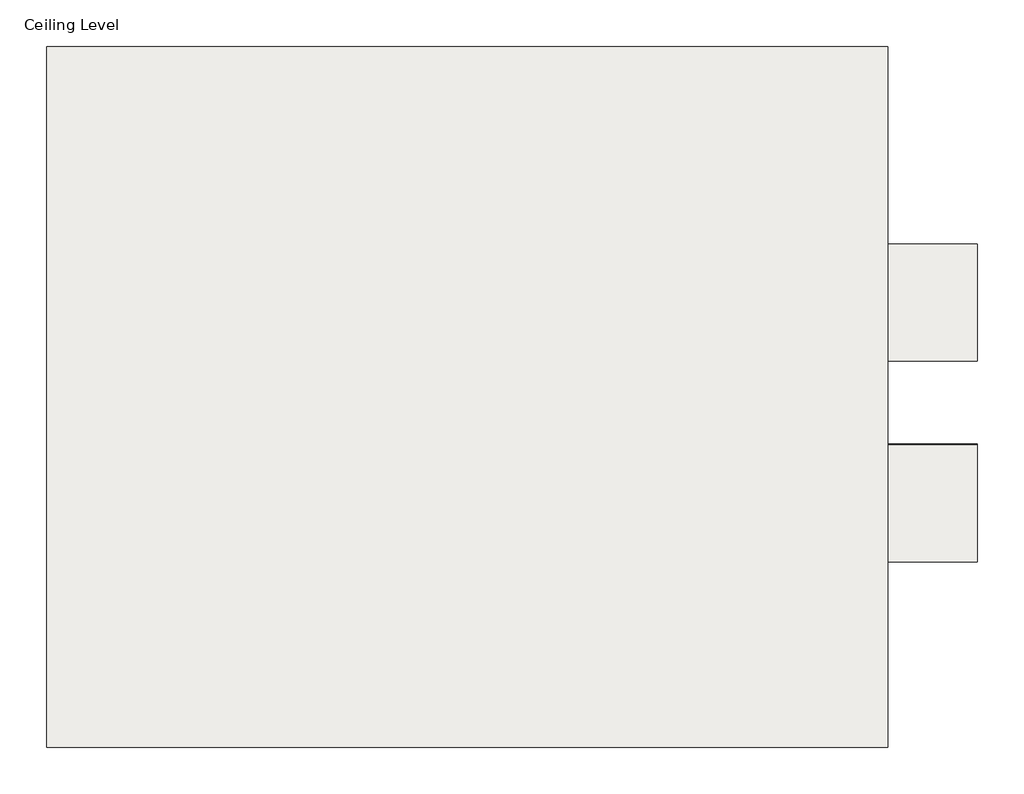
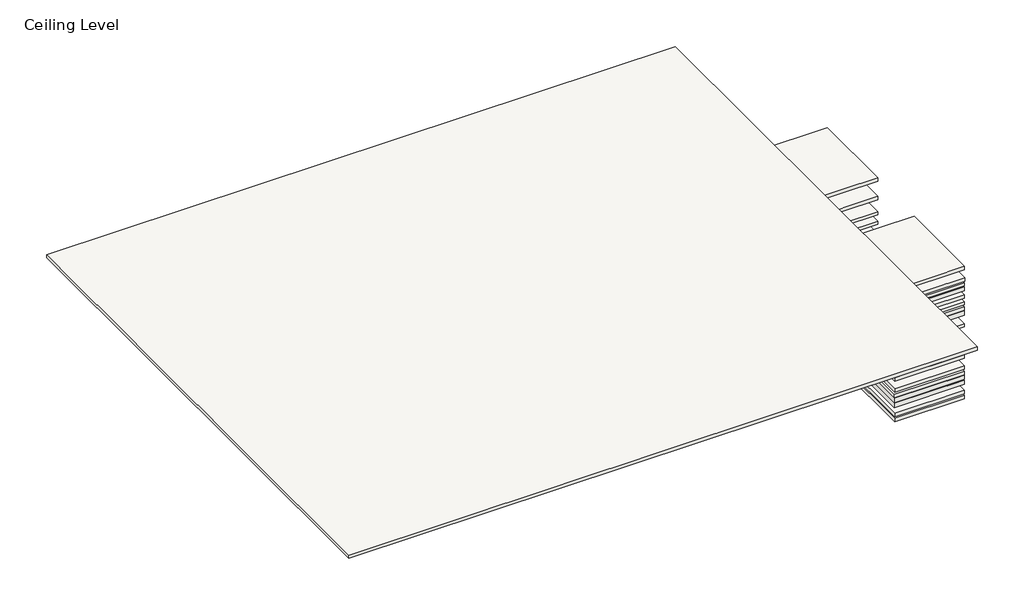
# One storey: 29 coverings.
"""IFC4 building model written with IfcOpenShell, lengths in millimetres."""

from ifc_helpers import new_model, si_unit, frame, origin, place, context, project, spatial, polyline, outline, extrude, element, save

model = new_model("IFC4")

# Units and contexts
model_context = context("Model", 3, world=origin())
ifc_project = project(units=[si_unit("LENGTHUNIT", "METRE", prefix="MILLI")], contexts=[model_context])

# Site, building, storey
site = spatial("IfcSite", under=ifc_project)
building = spatial("IfcBuilding", under=site)
storey = spatial("IfcBuildingStorey", under=building, Name="Ceiling Level", Elevation=0.0)

# Coverings
placement = place(None, origin())
element("IfcCovering", 1, ObjectType="Rockfon Blanka A24 (white) 1200 x 600 mm", at=placement, inside=storey, context=model_context, shape_type="SweptSolid", body=[
    extrude(outline(polyline([(-7116.7423739, 8843.6758075), (-7116.7423739, 5843.6758075), (-10716.7423739, 5843.6758075), (-10716.7423739, 8843.6758075), (-7116.7423739, 8843.6758075)])), frame((0.0, 0.0, 1.0), z_axis=(0.0, 0.0, 1.0), x_axis=(1.0, 0.0, 0.0)), (0.0, 0.0, 1.0), 20.0),
])
element("IfcCovering", 2, ObjectType="Rockfon Blanka E24 (white) 600 x 600 mm", at=placement, inside=storey, context=model_context, shape_type="SweptSolid", body=[
    extrude(outline(polyline([(-6733.0033126, 7997.4793902), (-6733.0033126, 7497.4793902), (-7133.0033126, 7497.4793902), (-7133.0033126, 7997.4793902), (-6733.0033126, 7997.4793902)])), frame((0.0, 0.0, -565.5292024), z_axis=(0.0, 0.0, 1.0), x_axis=(1.0, 0.0, 0.0)), (0.0, 0.0, 1.0), 20.0),
])
element("IfcCovering", 3, ObjectType="Rockfon Blanka E15 (white) 600 x 600 mm", at=placement, inside=storey, context=model_context, shape_type="SweptSolid", body=[
    extrude(outline(polyline([(-6733.0033126, 7997.4793902), (-6733.0033126, 7497.4793902), (-7133.0033126, 7497.4793902), (-7133.0033126, 7997.4793902), (-6733.0033126, 7997.4793902)])), frame((0.0, 0.0, -451.6416578), z_axis=(0.0, 0.0, 1.0), x_axis=(1.0, 0.0, 0.0)), (0.0, 0.0, 1.0), 20.0),
])
element("IfcCovering", 4, ObjectType="Rockfon Blanka D (white) 600 x 600 mm", at=placement, inside=storey, context=model_context, shape_type="SweptSolid", body=[
    extrude(outline(polyline([(-6733.0033126, 7997.4793902), (-6733.0033126, 7497.4793902), (-7133.0033126, 7497.4793902), (-7133.0033126, 7997.4793902), (-6733.0033126, 7997.4793902)])), frame((0.0, 0.0, -374.3313889), z_axis=(0.0, 0.0, 1.0), x_axis=(1.0, 0.0, 0.0)), (0.0, 0.0, 1.0), 20.0),
])
element("IfcCovering", 5, ObjectType="Rockfon Blanka B (white) 600 x 600 mm", at=placement, inside=storey, context=model_context, shape_type="SweptSolid", body=[
    extrude(outline(polyline([(-6733.0033126, 7997.4793902), (-6733.0033126, 7497.4793902), (-7133.0033126, 7497.4793902), (-7133.0033126, 7997.4793902), (-6733.0033126, 7997.4793902)])), frame((0.0, 0.0, -315.9461569), z_axis=(0.0, 0.0, 1.0), x_axis=(1.0, 0.0, 0.0)), (0.0, 0.0, 1.0), 20.0),
])
element("IfcCovering", 6, ObjectType="Rockfon Blanka A24 (white) 600 x 600 mm", at=placement, inside=storey, context=model_context, shape_type="SweptSolid", body=[
    extrude(outline(polyline([(-6733.0033126, 7997.4793902), (-6733.0033126, 7497.4793902), (-7133.0033126, 7497.4793902), (-7133.0033126, 7997.4793902), (-6733.0033126, 7997.4793902)])), frame((0.0, 0.0, -224.7096057), z_axis=(0.0, 0.0, 1.0), x_axis=(1.0, 0.0, 0.0)), (0.0, 0.0, 1.0), 20.0),
])
element("IfcCovering", 7, ObjectType="Rockfon Blanka A15 (white) 600 x 600 mm", at=placement, inside=storey, context=model_context, shape_type="SweptSolid", body=[
    extrude(outline(polyline([(-6733.0033126, 7997.4793902), (-6733.0033126, 7497.4793902), (-7133.0033126, 7497.4793902), (-7133.0033126, 7997.4793902), (-6733.0033126, 7997.4793902)])), frame((0.0, 0.0, -111.8334009), z_axis=(0.0, 0.0, 1.0), x_axis=(1.0, 0.0, 0.0)), (0.0, 0.0, 1.0), 20.0),
])
element("IfcCovering", 8, ObjectType="Rockfon Blanka M (white) 600 x 600 mm", at=placement, inside=storey, context=model_context, shape_type="SweptSolid", body=[
    extrude(outline(polyline([(-6733.0033126, 7997.4793902), (-6733.0033126, 7497.4793902), (-7133.0033126, 7497.4793902), (-7133.0033126, 7997.4793902), (-6733.0033126, 7997.4793902)])), frame((0.0, 0.0, -661.6197018), z_axis=(0.0, 0.0, 1.0), x_axis=(1.0, 0.0, 0.0)), (0.0, 0.0, 1.0), 20.0),
])
element("IfcCovering", 9, ObjectType="Rockfon Blanka X (white) 600 x 600 mm", at=placement, inside=storey, context=model_context, shape_type="SweptSolid", body=[
    extrude(outline(polyline([(-6733.0033126, 7997.4793902), (-6733.0033126, 7497.4793902), (-7133.0033126, 7497.4793902), (-7133.0033126, 7997.4793902), (-6733.0033126, 7997.4793902)])), frame((0.0, 0.0, -749.5133217), z_axis=(0.0, 0.0, 1.0), x_axis=(1.0, 0.0, 0.0)), (0.0, 0.0, 1.0), 22.0),
])
element("IfcCovering", 10, ObjectType="Rockfon Blanka Z (white) 600 x 600 mm", at=placement, inside=storey, context=model_context, shape_type="SweptSolid", body=[
    extrude(outline(polyline([(-6733.0033126, 7997.4793902), (-6733.0033126, 7497.4793902), (-7133.0033126, 7497.4793902), (-7133.0033126, 7997.4793902), (-6733.0033126, 7997.4793902)])), frame((0.0, 0.0, -876.9935831), z_axis=(0.0, 0.0, 1.0), x_axis=(1.0, 0.0, 0.0)), (0.0, 0.0, 1.0), 20.0),
])
element("IfcCovering", 11, ObjectType="Rockfon Blanka E15 (white) 1200 x 600 mm", at=placement, inside=storey, context=model_context, shape_type="SweptSolid", body=[
    extrude(outline(polyline([(-6733.0033126, 7138.5710355), (-6733.0033126, 6638.5710355), (-7133.0033126, 6638.5710355), (-7133.0033126, 7138.5710355), (-6733.0033126, 7138.5710355)])), frame((0.0, 0.0, -473.8309909), z_axis=(0.0, 0.0, 1.0), x_axis=(1.0, 0.0, 0.0)), (0.0, 0.0, 1.0), 20.0),
])
element("IfcCovering", 12, ObjectType="Rockfon Blanka B (white) 1200 x 600 mm", at=placement, inside=storey, context=model_context, shape_type="SweptSolid", body=[
    extrude(outline(polyline([(-6733.0033126, 7138.8849722), (-6733.0033126, 6638.8849722), (-7133.0033126, 6638.8849722), (-7133.0033126, 7138.8849722), (-6733.0033126, 7138.8849722)])), frame((0.0, 0.0, -299.1601161), z_axis=(0.0, 0.0, 1.0), x_axis=(1.0, 0.0, 0.0)), (0.0, 0.0, 1.0), 20.0),
])
element("IfcCovering", 13, ObjectType="Rockfon Blanka A24 (white) 1200 x 600 mm", at=placement, inside=storey, context=model_context, shape_type="SweptSolid", body=[
    extrude(outline(polyline([(-6733.0033126, 7136.5301333), (-6733.0033126, 6636.5301333), (-7133.0033126, 6636.5301333), (-7133.0033126, 7136.5301333), (-6733.0033126, 7136.5301333)])), frame((0.0, 0.0, -195.0), z_axis=(0.0, 0.0, 1.0), x_axis=(1.0, 0.0, 0.0)), (0.0, 0.0, 1.0), 20.0),
])
element("IfcCovering", 14, ObjectType="Rockfon Blanka A24 (white) 2400 x 600 mm", at=placement, inside=storey, context=model_context, shape_type="SweptSolid", body=[
    extrude(outline(polyline([(-6733.0033126, 7137.4793902), (-6733.0033126, 6637.4793902), (-7133.0033126, 6637.4793902), (-7133.0033126, 7137.4793902), (-6733.0033126, 7137.4793902)])), frame((0.0, 0.0, -255.0), z_axis=(0.0, 0.0, 1.0), x_axis=(1.0, 0.0, 0.0)), (0.0, 0.0, 1.0), 25.0),
])
element("IfcCovering", 15, ObjectType="Rockfon Blanka A24 (white) 1800 x 600 mm", at=placement, inside=storey, context=model_context, shape_type="SweptSolid", body=[
    extrude(outline(polyline([(-6733.0033126, 7137.4793902), (-6733.0033126, 6637.4793902), (-7133.0033126, 6637.4793902), (-7133.0033126, 7137.4793902), (-6733.0033126, 7137.4793902)])), frame((0.0, 0.0, -224.7096057), z_axis=(0.0, 0.0, 1.0), x_axis=(1.0, 0.0, 0.0)), (0.0, 0.0, 1.0), 20.0),
])
element("IfcCovering", 16, ObjectType="Rockfon Blanka A15 (white) 1200 x 600 mm", at=placement, inside=storey, context=model_context, shape_type="SweptSolid", body=[
    extrude(outline(polyline([(-6733.0033126, 7137.4793902), (-6733.0033126, 6637.4793902), (-7133.0033126, 6637.4793902), (-7133.0033126, 7137.4793902), (-6733.0033126, 7137.4793902)])), frame((0.0, 0.0, -126.8334009), z_axis=(0.0, 0.0, 1.0), x_axis=(1.0, 0.0, 0.0)), (0.0, 0.0, 1.0), 20.0),
])
element("IfcCovering", 17, ObjectType="Rockfon Blanka M (white) 1200 x 600 mm", at=placement, inside=storey, context=model_context, shape_type="SweptSolid", body=[
    extrude(outline(polyline([(-6733.0033126, 7137.4793902), (-6733.0033126, 6637.4793902), (-7133.0033126, 6637.4793902), (-7133.0033126, 7137.4793902), (-6733.0033126, 7137.4793902)])), frame((0.0, 0.0, -661.6197018), z_axis=(0.0, 0.0, 1.0), x_axis=(1.0, 0.0, 0.0)), (0.0, 0.0, 1.0), 20.0),
])
element("IfcCovering", 18, ObjectType="Rockfon Blanka X (white) 1200 x 600 mm", at=placement, inside=storey, context=model_context, shape_type="SweptSolid", body=[
    extrude(outline(polyline([(-6733.0033126, 7137.4793902), (-6733.0033126, 6637.4793902), (-7133.0033126, 6637.4793902), (-7133.0033126, 7137.4793902), (-6733.0033126, 7137.4793902)])), frame((0.0, 0.0, -729.5133217), z_axis=(0.0, 0.0, 1.0), x_axis=(1.0, 0.0, 0.0)), (0.0, 0.0, 1.0), 22.0),
])
element("IfcCovering", 19, ObjectType="Rockfon Blanka Z (white) 1200 x 600 mm", at=placement, inside=storey, context=model_context, shape_type="SweptSolid", body=[
    extrude(outline(polyline([(-6733.0033126, 7137.4793902), (-6733.0033126, 6637.4793902), (-7133.0033126, 6637.4793902), (-7133.0033126, 7137.4793902), (-6733.0033126, 7137.4793902)])), frame((0.0, 0.0, -876.9935831), z_axis=(0.0, 0.0, 1.0), x_axis=(1.0, 0.0, 0.0)), (0.0, 0.0, 1.0), 20.0),
])
element("IfcCovering", 20, ObjectType="Rockfon Blanka X (white) 1800 x 600 mm", at=placement, inside=storey, context=model_context, shape_type="SweptSolid", body=[
    extrude(outline(polyline([(-6733.0033126, 7140.1190061), (-6733.0033126, 6640.1190061), (-7133.0033126, 6640.1190061), (-7133.0033126, 7140.1190061), (-6733.0033126, 7140.1190061)])), frame((0.0, 0.0, -764.1601161), z_axis=(0.0, 0.0, 1.0), x_axis=(1.0, 0.0, 0.0)), (0.0, 0.0, 1.0), 22.0),
])
element("IfcCovering", 21, ObjectType="Rockfon Blanka X (white) 2400 x 600 mm", at=placement, inside=storey, context=model_context, shape_type="SweptSolid", body=[
    extrude(outline(polyline([(-6733.0033126, 7141.0682629), (-6733.0033126, 6641.0682629), (-7133.0033126, 6641.0682629), (-7133.0033126, 7141.0682629), (-6733.0033126, 7141.0682629)])), frame((0.0, 0.0, -824.1601161), z_axis=(0.0, 0.0, 1.0), x_axis=(1.0, 0.0, 0.0)), (0.0, 0.0, 1.0), 25.0),
])
element("IfcCovering", 22, ObjectType="Rockfon Blanka X (white) 2100 x 600 mm", at=placement, inside=storey, context=model_context, shape_type="SweptSolid", body=[
    extrude(outline(polyline([(-6733.0033126, 7141.0682629), (-6733.0033126, 6641.0682629), (-7133.0033126, 6641.0682629), (-7133.0033126, 7141.0682629), (-6733.0033126, 7141.0682629)])), frame((0.0, 0.0, -793.8697217), z_axis=(0.0, 0.0, 1.0), x_axis=(1.0, 0.0, 0.0)), (0.0, 0.0, 1.0), 25.0),
])
element("IfcCovering", 23, ObjectType="Rockfon Blanka Z (white) 1800 x 600 mm", at=placement, inside=storey, context=model_context, shape_type="SweptSolid", body=[
    extrude(outline(polyline([(-6733.0033126, 7137.4793902), (-6733.0033126, 6637.4793902), (-7133.0033126, 6637.4793902), (-7133.0033126, 7137.4793902), (-6733.0033126, 7137.4793902)])), frame((0.0, 0.0, -906.9935831), z_axis=(0.0, 0.0, 1.0), x_axis=(1.0, 0.0, 0.0)), (0.0, 0.0, 1.0), 20.0),
])
element("IfcCovering", 24, ObjectType="Rockfon Blanka E24 (white) 1200 x 600 mm", at=placement, inside=storey, context=model_context, shape_type="SweptSolid", body=[
    extrude(outline(polyline([(-6733.0033126, 7137.4793902), (-6733.0033126, 6637.4793902), (-7133.0033126, 6637.4793902), (-7133.0033126, 7137.4793902), (-6733.0033126, 7137.4793902)])), frame((0.0, 0.0, -534.5133217), z_axis=(0.0, 0.0, 1.0), x_axis=(1.0, 0.0, 0.0)), (0.0, 0.0, 1.0), 20.0),
])
element("IfcCovering", 25, ObjectType="Rockfon Blanka E24 (white) 1200 x 1200 mm", at=placement, inside=storey, context=model_context, shape_type="SweptSolid", body=[
    extrude(outline(polyline([(-6733.0033126, 7141.0682629), (-6733.0033126, 6641.0682629), (-7133.0033126, 6641.0682629), (-7133.0033126, 7141.0682629), (-6733.0033126, 7141.0682629)])), frame((0.0, 0.0, -598.8697217), z_axis=(0.0, 0.0, 1.0), x_axis=(1.0, 0.0, 0.0)), (0.0, 0.0, 1.0), 25.0),
])
element("IfcCovering", 26, ObjectType="Rockfon Blanka D (white) 1200 x 600 mm", at=placement, inside=storey, context=model_context, shape_type="SweptSolid", body=[
    extrude(outline(polyline([(-6733.0033126, 7137.4793902), (-6733.0033126, 6637.4793902), (-7133.0033126, 6637.4793902), (-7133.0033126, 7137.4793902), (-6733.0033126, 7137.4793902)])), frame((0.0, 0.0, -339.5133217), z_axis=(0.0, 0.0, 1.0), x_axis=(1.0, 0.0, 0.0)), (0.0, 0.0, 1.0), 20.0),
])
element("IfcCovering", 27, ObjectType="Rockfon Blanka D (white) 1800 x 600 mm", at=placement, inside=storey, context=model_context, shape_type="SweptSolid", body=[
    extrude(outline(polyline([(-6733.0033126, 7140.1190061), (-6733.0033126, 6640.1190061), (-7133.0033126, 6640.1190061), (-7133.0033126, 7140.1190061), (-6733.0033126, 7140.1190061)])), frame((0.0, 0.0, -374.1601161), z_axis=(0.0, 0.0, 1.0), x_axis=(1.0, 0.0, 0.0)), (0.0, 0.0, 1.0), 20.0),
])
element("IfcCovering", 28, ObjectType="Rockfon Blanka D (white) 1200 x 1200 mm", at=placement, inside=storey, context=model_context, shape_type="SweptSolid", body=[
    extrude(outline(polyline([(-6733.0033126, 7141.0682629), (-6733.0033126, 6641.0682629), (-7133.0033126, 6641.0682629), (-7133.0033126, 7141.0682629), (-6733.0033126, 7141.0682629)])), frame((0.0, 0.0, -403.8697217), z_axis=(0.0, 0.0, 1.0), x_axis=(1.0, 0.0, 0.0)), (0.0, 0.0, 1.0), 25.0),
])
element("IfcCovering", 29, ObjectType="Rockfon Blanka E24 (white) 1800 x 600 mm", at=placement, inside=storey, context=model_context, shape_type="SweptSolid", body=[
    extrude(outline(polyline([(-6733.0033126, 7138.428647), (-6733.0033126, 6638.428647), (-7133.0033126, 6638.428647), (-7133.0033126, 7138.428647), (-6733.0033126, 7138.428647)])), frame((0.0, 0.0, -567.2385889), z_axis=(0.0, 0.0, 1.0), x_axis=(1.0, 0.0, 0.0)), (0.0, 0.0, 1.0), 20.0),
])

save(model, "model.ifc")
